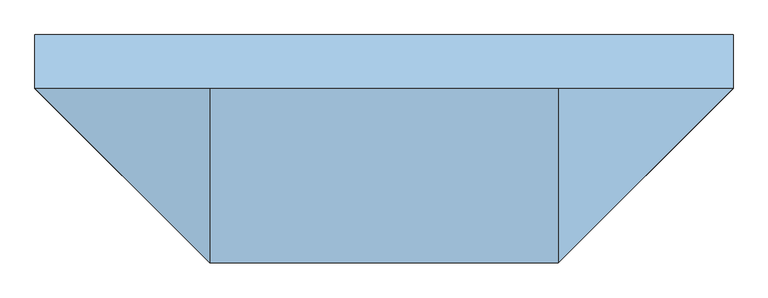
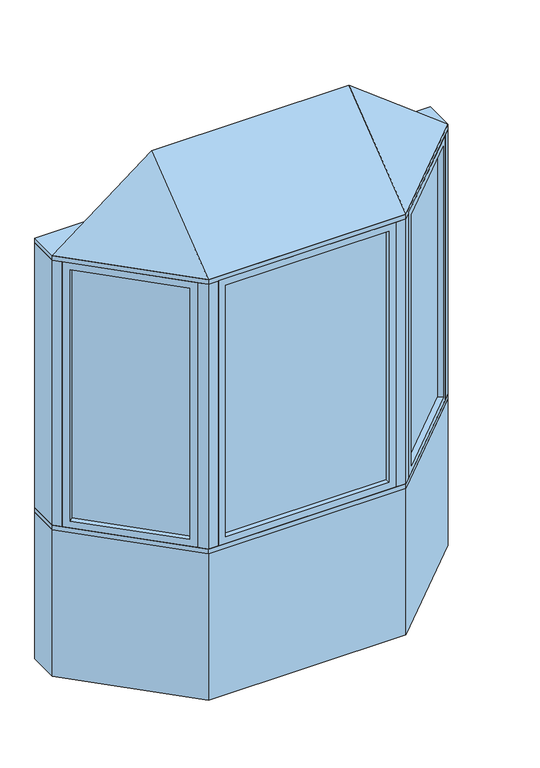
"""IFC4 building model written with IfcOpenShell, lengths in millimetres: window geometry, Pollard_Windows_Tudor Casement Bows and Bays : AML-BAY 45 AFR0514-10-600."""

from ifc_helpers import new_model, si_unit, frame, origin, origin_with_axes, place, context, project, spatial, polyline, outline, extrude, faceted_brep, source, transform, mapped, element, save


def window_b84ada9c(model_context):
    return source(origin(), model_context, "Body", "SolidModel", [
        extrude(outline(polyline([(924.0964271, -104.763169), (528.474814, -500.3847822), (524.8827115, -496.7926797), (920.5043247, -101.1710666), (924.0964271, -104.763169)])), frame((0.0, 0.0, 823.1628), z_axis=(0.0, 0.0, 1.0), x_axis=(1.0, 0.0, 0.0)), (0.0, 0.0, 1.0), 1353.6704),
        faceted_brep([(915.116171, -113.7434252, 835.8628), (933.0766833, -131.7039374, 835.8628), (933.0766833, -131.7039374, 2164.1332), (915.116171, -113.7434252, 2164.1332), (920.5043247, -101.1710666, 823.1628), (924.0964271, -104.763169, 823.1628), (924.0964271, -104.763169, 2176.8332), (920.5043247, -101.1710666, 2176.8332), (893.5635563, -92.1908105, 835.8628), (911.5240686, -110.1513227, 835.8628), (911.5240686, -110.1513227, 2164.1332), (893.5635563, -92.1908105, 2164.1332), (958.4369265, -106.3436941, 799.998), (918.9237996, -66.8305672, 799.998), (918.9237996, -66.8305672, 2199.998), (958.4369265, -106.3436941, 2199.998), (555.4155823, -509.3650383, 2164.1332), (537.4550701, -491.4045261, 2164.1332), (528.474814, -500.3847822, 2176.8332), (524.8827115, -496.7926797, 2176.8332), (533.8629677, -487.8124236, 2164.1332), (515.9024554, -469.8519114, 2164.1332), (490.5422121, -495.2121547, 2199.998), (530.0553391, -534.7252816, 2199.998), (555.4155823, -509.3650383, 835.8628), (537.4550701, -491.4045261, 835.8628), (528.474814, -500.3847822, 823.1628), (524.8827115, -496.7926797, 823.1628), (533.8629677, -487.8124236, 835.8628), (515.9024554, -469.8519114, 835.8628), (490.5422121, -495.2121547, 799.998), (530.0553391, -534.7252816, 799.998)], [[[0, 1, 2, 3]], [[4, 5, 6, 7]], [[8, 9, 10, 11]], [[12, 13, 14, 15]], [[3, 2, 16, 17]], [[7, 6, 18, 19]], [[11, 10, 20, 21]], [[15, 14, 22, 23]], [[17, 16, 24, 25]], [[19, 18, 26, 27]], [[21, 20, 28, 29]], [[23, 22, 30, 31]], [[25, 24, 1, 0]], [[5, 26, 18, 6], [3, 17, 25, 0]], [[27, 26, 5, 4]], [[7, 19, 27, 4], [9, 28, 20, 10]], [[29, 28, 9, 8]], [[13, 30, 22, 14], [11, 21, 29, 8]], [[31, 30, 13, 12]], [[15, 23, 31, 12], [1, 24, 16, 2]]]),
        extrude(outline(polyline([(-528.474814, -500.3847822), (-924.0964271, -104.763169), (-920.5043247, -101.1710666), (-524.8827115, -496.7926797), (-528.474814, -500.3847822)])), frame((0.0, 0.0, 823.1628), z_axis=(0.0, 0.0, 1.0), x_axis=(1.0, 0.0, 0.0)), (0.0, 0.0, 1.0), 1353.6704),
        faceted_brep([(-533.8629677, -487.8124236, 2164.1332), (-515.9024554, -469.8519114, 2164.1332), (-515.9024554, -469.8519114, 835.8628), (-533.8629677, -487.8124236, 835.8628), (-528.474814, -500.3847822, 2176.8332), (-524.8827115, -496.7926797, 2176.8332), (-524.8827115, -496.7926797, 823.1628), (-528.474814, -500.3847822, 823.1628), (-555.4155823, -509.3650383, 2164.1332), (-537.4550701, -491.4045261, 2164.1332), (-537.4550701, -491.4045261, 835.8628), (-555.4155823, -509.3650383, 835.8628), (-490.5422121, -495.2121547, 2199.998), (-530.0553391, -534.7252816, 2199.998), (-530.0553391, -534.7252816, 799.998), (-490.5422121, -495.2121547, 799.998), (-893.5635563, -92.1908105, 835.8628), (-911.5240686, -110.1513227, 835.8628), (-920.5043247, -101.1710666, 823.1628), (-924.0964271, -104.763169, 823.1628), (-915.116171, -113.7434252, 835.8628), (-933.0766833, -131.7039374, 835.8628), (-958.4369265, -106.3436941, 799.998), (-918.9237996, -66.8305672, 799.998), (-893.5635563, -92.1908105, 2164.1332), (-911.5240686, -110.1513227, 2164.1332), (-920.5043247, -101.1710666, 2176.8332), (-924.0964271, -104.763169, 2176.8332), (-915.116171, -113.7434252, 2164.1332), (-933.0766833, -131.7039374, 2164.1332), (-958.4369265, -106.3436941, 2199.998), (-918.9237996, -66.8305672, 2199.998)], [[[0, 1, 2, 3]], [[4, 5, 6, 7]], [[8, 9, 10, 11]], [[12, 13, 14, 15]], [[3, 2, 16, 17]], [[7, 6, 18, 19]], [[11, 10, 20, 21]], [[15, 14, 22, 23]], [[17, 16, 24, 25]], [[19, 18, 26, 27]], [[21, 20, 28, 29]], [[23, 22, 30, 31]], [[15, 23, 31, 12], [1, 24, 16, 2]], [[25, 24, 1, 0]], [[5, 26, 18, 6], [3, 17, 25, 0]], [[27, 26, 5, 4]], [[7, 19, 27, 4], [9, 28, 20, 10]], [[29, 28, 9, 8]], [[13, 30, 22, 14], [11, 21, 29, 8]], [[31, 30, 13, 12]]]),
        extrude(outline(polyline([(421.5352, -544.6806207), (-421.5352, -544.6806207), (-421.5352, -539.6006207), (421.5352, -539.6006207), (421.5352, -544.6806207)])), frame((0.0, 0.0, 823.1628), z_axis=(0.0, 0.0, 1.0), x_axis=(1.0, 0.0, 0.0)), (0.0, 0.0, 1.0), 1353.6704),
        faceted_brep([(408.8352, -544.6806207, 835.8628), (408.8352, -570.0806207, 835.8628), (408.8352, -570.0806207, 2164.1332), (408.8352, -544.6806207, 2164.1332), (421.5352, -539.6006207, 823.1628), (421.5352, -544.6806207, 823.1628), (421.5352, -544.6806207, 2176.8332), (421.5352, -539.6006207, 2176.8332), (408.8352, -514.2006207, 835.8628), (408.8352, -539.6006207, 835.8628), (408.8352, -539.6006207, 2164.1332), (408.8352, -514.2006207, 2164.1332), (444.7, -570.0806207, 799.998), (444.7, -514.2006207, 799.998), (444.7, -514.2006207, 2199.998), (444.7, -570.0806207, 2199.998), (-408.8352, -570.0806207, 2164.1332), (-408.8352, -544.6806207, 2164.1332), (-421.5352, -544.6806207, 2176.8332), (-421.5352, -539.6006207, 2176.8332), (-408.8352, -539.6006207, 2164.1332), (-408.8352, -514.2006207, 2164.1332), (-444.7, -514.2006207, 2199.998), (-444.7, -570.0806207, 2199.998), (-408.8352, -570.0806207, 835.8628), (-408.8352, -544.6806207, 835.8628), (-421.5352, -544.6806207, 823.1628), (-421.5352, -539.6006207, 823.1628), (-408.8352, -539.6006207, 835.8628), (-408.8352, -514.2006207, 835.8628), (-444.7, -514.2006207, 799.998), (-444.7, -570.0806207, 799.998)], [[[0, 1, 2, 3]], [[4, 5, 6, 7]], [[8, 9, 10, 11]], [[12, 13, 14, 15]], [[3, 2, 16, 17]], [[7, 6, 18, 19]], [[11, 10, 20, 21]], [[15, 14, 22, 23]], [[17, 16, 24, 25]], [[19, 18, 26, 27]], [[21, 20, 28, 29]], [[23, 22, 30, 31]], [[15, 23, 31, 12], [1, 24, 16, 2]], [[25, 24, 1, 0]], [[5, 26, 18, 6], [3, 17, 25, 0]], [[27, 26, 5, 4]], [[7, 19, 27, 4], [9, 28, 20, 10]], [[29, 28, 9, 8]], [[13, 30, 22, 14], [11, 21, 29, 8]], [[31, 30, 13, 12]]]),
        faceted_brep([(990.0, -74.7806207, 2225.398), (494.7, -570.0806207, 2225.398), (-494.7, -570.0806207, 2225.398), (-990.0, -74.7806207, 2225.398), (-494.7, -74.7806207, 2606.398), (494.7, -74.7806207, 2606.398)], [[[0, 1, 2, 3]], [[3, 2, 4]], [[2, 1, 5, 4]], [[1, 0, 5]], [[0, 3, 4, 5]]]),
        extrude(outline(polyline([(-990.0, 77.6193793), (990.0, 77.6193793), (990.0, -74.7806207), (494.7, -570.0806207), (-494.7, -570.0806207), (-990.0, -74.7806207), (-990.0, 77.6193793)])), frame((0.0, 0.0, 2199.998), z_axis=(0.0, 0.0, 1.0), x_axis=(1.0, 0.0, 0.0)), (0.0, 0.0, 1.0), 25.4),
        extrude(outline(polyline([(-990.0, -74.7806207), (-990.0, 77.6193793), (-926.8738531, 77.6193793), (-926.8738531, -74.7806207), (-958.4369265, -106.3436941), (-990.0, -74.7806207)])), frame((0.0, 0.0, 799.998), z_axis=(0.0, 0.0, 1.0), x_axis=(1.0, 0.0, 0.0)), (0.0, 0.0, 1.0), 1400.0),
        extrude(outline(polyline([(990.0, 77.6193793), (990.0, -74.7806207), (958.4369265, -106.3436941), (926.8738531, -74.7806207), (926.8738531, 77.6193793), (990.0, 77.6193793)])), frame((0.0, 0.0, 799.998), z_axis=(0.0, 0.0, 1.0), x_axis=(1.0, 0.0, 0.0)), (0.0, 0.0, 1.0), 1400.0),
        extrude(outline(polyline([(494.7, -570.0806207), (444.7, -570.0806207), (444.7, -520.0806207), (473.9893219, -520.0806207), (494.7, -499.3699425), (530.0553391, -534.7252816), (494.7, -570.0806207)])), frame((0.0, 0.0, 799.998), z_axis=(0.0, 0.0, 1.0), x_axis=(1.0, 0.0, 0.0)), (0.0, 0.0, 1.0), 1400.0),
        extrude(outline(polyline([(-494.7, -570.0806207), (-530.0553391, -534.7252816), (-494.7, -499.3699425), (-473.9893219, -520.0806207), (-444.7, -520.0806207), (-444.7, -570.0806207), (-494.7, -570.0806207)])), frame((0.0, 0.0, 799.998), z_axis=(0.0, 0.0, 1.0), x_axis=(1.0, 0.0, 0.0)), (0.0, 0.0, 1.0), 1400.0),
        extrude(outline(polyline([(-494.7, -570.0806207), (-990.0, -74.7806207), (-990.0, 77.6193793), (-926.8738531, 77.6193793), (-431.5738531, -417.6806207), (431.5738531, -417.6806207), (926.8738531, 77.6193793), (990.0, 77.6193793), (990.0, -74.7806207), (494.7, -570.0806207), (-494.7, -570.0806207)])), frame((0.0, 0.0, 774.598), z_axis=(0.0, 0.0, 1.0), x_axis=(1.0, 0.0, 0.0)), (0.0, 0.0, 1.0), 25.4),
        extrude(outline(polyline([(-990.0, -74.7806207), (-990.0, 77.6193793), (-926.8738531, 77.6193793), (-431.5738531, -417.6806207), (431.5738531, -417.6806207), (926.8738531, 77.6193793), (990.0, 77.6193793), (990.0, -74.7806207), (494.7, -570.0806207), (-494.7, -570.0806207), (-990.0, -74.7806207)])), origin_with_axes(), (0.0, 0.0, 1.0), 774.598),
    ])


if __name__ == "__main__":
    model = new_model("IFC4")
    model_context = context("Model", 3, world=origin())
    ifc_project = project(units=[si_unit("LENGTHUNIT", "METRE", prefix="MILLI")], contexts=[model_context])
    site = spatial("IfcSite", under=ifc_project)
    building = spatial("IfcBuilding", under=site)
    placement = place(None, origin())
    window_shape = window_b84ada9c(model_context)
    element("IfcWindow", 1, ObjectType="Pollard_Windows_Tudor Casement Bows and Bays : AML-BAY 45 AFR0514-10-600", at=placement, inside=building, context=model_context, shape_type="MappedRepresentation", body=[
        mapped(window_shape, transform((0.0, 0.0, 0.0), x_axis=(1.0, 0.0, 0.0), y_axis=(0.0, 1.0, 0.0), z_axis=(0.0, 0.0, 1.0))),
    ])
    save(model, "model.ifc")
